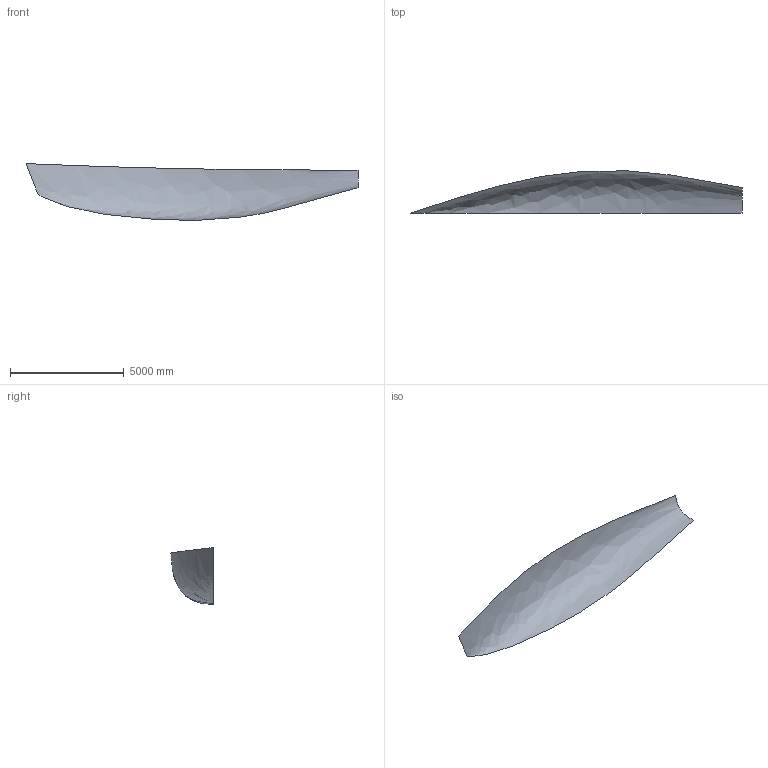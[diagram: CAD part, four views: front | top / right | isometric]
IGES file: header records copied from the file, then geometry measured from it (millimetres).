
Start section: DATA transfer to IGES file format           James R Teeters           17 Goodwin Street           Newport, RI 02840
Global section: file name: UssaM1.igs; author: Jim Teeters; organization: Newport RI; date: 951128.120000; units: metre
Bounding box: 14612.59 x 1853.62 x 2498.23 mm (x, y, z)
Surface area: 38485658.8 mm2 (no closed solid volume)
Topology: 0 solids, 0 shells, 1 faces, 4 edges, 4 vertices
Faces by surface type: bspline 1
